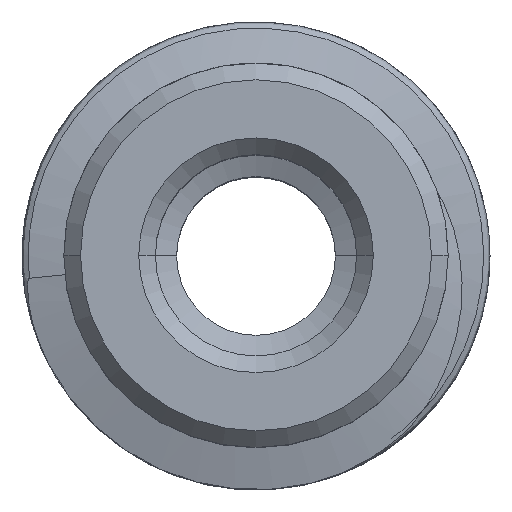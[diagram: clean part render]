
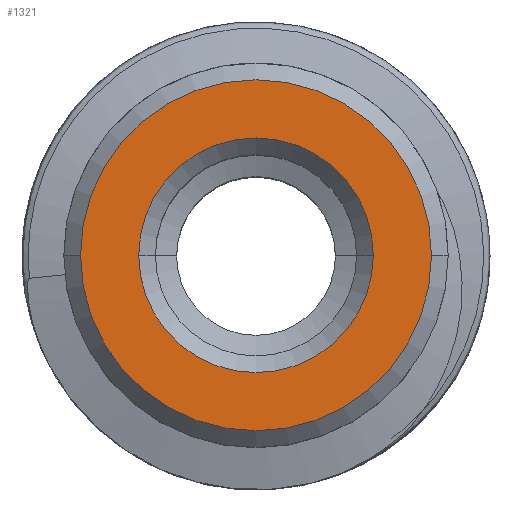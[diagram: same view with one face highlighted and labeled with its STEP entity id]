
A CAD part, top view. The second image highlights one B-rep face of the part: STEP entity #1321.
In plain terms, the highlighted planar face has unit normal (0, 0, 1).
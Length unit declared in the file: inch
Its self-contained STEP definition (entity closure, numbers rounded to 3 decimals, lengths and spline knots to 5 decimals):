
#15=PLANE('',#1495);
#34=FACE_BOUND('',#382,.T.);
#295=FACE_OUTER_BOUND('',#381,.T.);
#381=EDGE_LOOP('',(#1105,#1106));
#382=EDGE_LOOP('',(#1107,#1108));
#451=CIRCLE('',#1414,0.20669);
#456=CIRCLE('',#1421,0.13819);
#496=CIRCLE('',#1496,0.20669);
#497=CIRCLE('',#1497,0.13819);
#551=VERTEX_POINT('',#2183);
#552=VERTEX_POINT('',#2184);
#561=VERTEX_POINT('',#2204);
#562=VERTEX_POINT('',#2206);
#682=EDGE_CURVE('',#551,#552,#451,.T.);
#692=EDGE_CURVE('',#562,#561,#456,.T.);
#813=EDGE_CURVE('',#552,#551,#496,.T.);
#814=EDGE_CURVE('',#561,#562,#497,.T.);
#1105=ORIENTED_EDGE('',*,*,#813,.T.);
#1106=ORIENTED_EDGE('',*,*,#682,.T.);
#1107=ORIENTED_EDGE('',*,*,#692,.T.);
#1108=ORIENTED_EDGE('',*,*,#814,.T.);
#1321=ADVANCED_FACE('',(#295,#34),#15,.F.);
#1414=AXIS2_PLACEMENT_3D('',#2185,#1654,#1655);
#1421=AXIS2_PLACEMENT_3D('',#2207,#1673,#1674);
#1495=AXIS2_PLACEMENT_3D('',#6139,#1859,#1860);
#1496=AXIS2_PLACEMENT_3D('',#6140,#1861,#1862);
#1497=AXIS2_PLACEMENT_3D('',#6141,#1863,#1864);
#1654=DIRECTION('center_axis',(0.,0.,1.));
#1655=DIRECTION('ref_axis',(-1.,0.,0.));
#1673=DIRECTION('center_axis',(0.,0.,-1.));
#1674=DIRECTION('ref_axis',(-1.,0.,0.));
#1859=DIRECTION('center_axis',(0.,0.,-1.));
#1860=DIRECTION('ref_axis',(-1.,0.,0.));
#1861=DIRECTION('center_axis',(0.,0.,1.));
#1862=DIRECTION('ref_axis',(-1.,0.,0.));
#1863=DIRECTION('center_axis',(0.,0.,-1.));
#1864=DIRECTION('ref_axis',(-1.,0.,0.));
#2183=CARTESIAN_POINT('',(-1.44509,0.66895,1.2763));
#2184=CARTESIAN_POINT('',(-1.85847,0.66895,1.2763));
#2185=CARTESIAN_POINT('Origin',(-1.65178,0.66895,1.2763));
#2204=CARTESIAN_POINT('',(-1.78997,0.66895,1.2763));
#2206=CARTESIAN_POINT('',(-1.51359,0.66895,1.2763));
#2207=CARTESIAN_POINT('Origin',(-1.65178,0.66895,1.2763));
#6139=CARTESIAN_POINT('Origin',(-1.65178,0.92703,1.2763));
#6140=CARTESIAN_POINT('Origin',(-1.65178,0.66895,1.2763));
#6141=CARTESIAN_POINT('Origin',(-1.65178,0.66895,1.2763));
